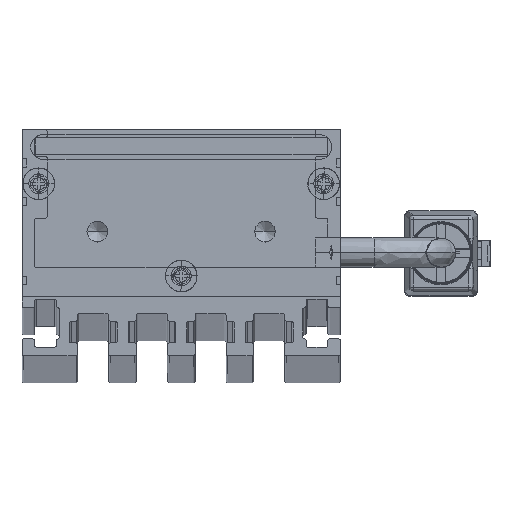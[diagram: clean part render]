
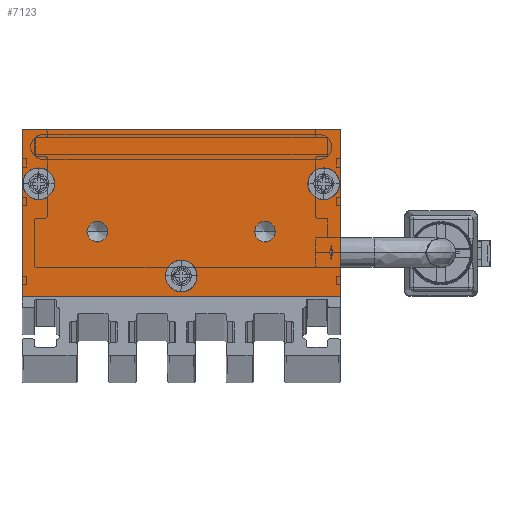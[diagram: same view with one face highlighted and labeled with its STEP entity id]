
A CAD part, top view. The second image highlights one B-rep face of the part: STEP entity #7123.
In plain terms, the highlighted planar face has unit normal (0, 0, 1) as drawn and (0, 0, -1) by its records, which use the part's own axes.
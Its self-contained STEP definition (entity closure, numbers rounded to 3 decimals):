
#138 = VERTEX_POINT ( 'NONE', #13411 ) ;
#186 = CIRCLE ( 'NONE', #11565, 1.9 ) ;
#296 = EDGE_LOOP ( 'NONE', ( #10713, #2514, #6945, #737 ) ) ;
#532 = VECTOR ( 'NONE', #13331, 1000. ) ;
#724 = CARTESIAN_POINT ( 'NONE',  ( 17., 13.5, -2.5 ) ) ;
#737 = ORIENTED_EDGE ( 'NONE', *, *, #13060, .F. ) ;
#748 = CARTESIAN_POINT ( 'NONE',  ( -17., 13.5, -2.5 ) ) ;
#769 = DIRECTION ( 'NONE',  ( 0., 0., -1. ) ) ;
#782 = AXIS2_PLACEMENT_3D ( 'NONE', #14626, #8401, #4578 ) ;
#985 = FACE_BOUND ( 'NONE', #12030, .T. ) ;
#1071 = CARTESIAN_POINT ( 'NONE',  ( 0., 0., -2.5 ) ) ;
#1179 = VECTOR ( 'NONE', #3588, 1000. ) ;
#1505 = EDGE_CURVE ( 'NONE', #11821, #138, #12246, .T. ) ;
#1665 = CARTESIAN_POINT ( 'NONE',  ( -19., 20., -2.5 ) ) ;
#1796 = EDGE_CURVE ( 'NONE', #11785, #14955, #3984, .T. ) ;
#1798 = VECTOR ( 'NONE', #8977, 1000. ) ;
#1811 = EDGE_LOOP ( 'NONE', ( #8878, #14829 ) ) ;
#1821 = ORIENTED_EDGE ( 'NONE', *, *, #12645, .F. ) ;
#1962 = CARTESIAN_POINT ( 'NONE',  ( 15.1, 13.5, -2.5 ) ) ;
#2100 = DIRECTION ( 'NONE',  ( -1., 0., 0. ) ) ;
#2311 = FACE_BOUND ( 'NONE', #1811, .T. ) ;
#2433 = DIRECTION ( 'NONE',  ( -1., 0., 0. ) ) ;
#2514 = ORIENTED_EDGE ( 'NONE', *, *, #4781, .F. ) ;
#2553 = CARTESIAN_POINT ( 'NONE',  ( -18.9, 13.5, -2.5 ) ) ;
#2968 = DIRECTION ( 'NONE',  ( 0., 0., -1. ) ) ;
#3050 = VERTEX_POINT ( 'NONE', #8273 ) ;
#3347 = AXIS2_PLACEMENT_3D ( 'NONE', #724, #2968, #14244 ) ;
#3476 = CARTESIAN_POINT ( 'NONE',  ( -19., 20., -2.5 ) ) ;
#3588 = DIRECTION ( 'NONE',  ( -1., 0., 0. ) ) ;
#3605 = AXIS2_PLACEMENT_3D ( 'NONE', #4656, #4745, #2100 ) ;
#3668 = CARTESIAN_POINT ( 'NONE',  ( -19., 20., -2.5 ) ) ;
#3861 = AXIS2_PLACEMENT_3D ( 'NONE', #8726, #12463, #2433 ) ;
#3863 = DIRECTION ( 'NONE',  ( -1., 0., 0. ) ) ;
#3984 = LINE ( 'NONE', #1665, #6173 ) ;
#4056 = ORIENTED_EDGE ( 'NONE', *, *, #11334, .F. ) ;
#4137 = CIRCLE ( 'NONE', #3347, 1.9 ) ;
#4363 = ORIENTED_EDGE ( 'NONE', *, *, #5262, .F. ) ;
#4400 = CIRCLE ( 'NONE', #8654, 1.9 ) ;
#4578 = DIRECTION ( 'NONE',  ( -1., 0., 0. ) ) ;
#4656 = CARTESIAN_POINT ( 'NONE',  ( -10., 7.8, -2.5 ) ) ;
#4745 = DIRECTION ( 'NONE',  ( 0., 0., -1. ) ) ;
#4755 = VERTEX_POINT ( 'NONE', #7386 ) ;
#4781 = EDGE_CURVE ( 'NONE', #15554, #11785, #14958, .T. ) ;
#5262 = EDGE_CURVE ( 'NONE', #7349, #10995, #4137, .T. ) ;
#5544 = CIRCLE ( 'NONE', #782, 1.25 ) ;
#5734 = CARTESIAN_POINT ( 'NONE',  ( -1.9, 2.5, -2.5 ) ) ;
#6127 = DIRECTION ( 'NONE',  ( 0., 0., 1. ) ) ;
#6173 = VECTOR ( 'NONE', #6793, 1000. ) ;
#6710 = ORIENTED_EDGE ( 'NONE', *, *, #15471, .F. ) ;
#6763 = CIRCLE ( 'NONE', #3605, 1.25 ) ;
#6793 = DIRECTION ( 'NONE',  ( 0., -1., 0. ) ) ;
#6945 = ORIENTED_EDGE ( 'NONE', *, *, #9125, .F. ) ;
#6958 = DIRECTION ( 'NONE',  ( -1., 0., 0. ) ) ;
#7100 = EDGE_LOOP ( 'NONE', ( #12614, #14977 ) ) ;
#7118 = CARTESIAN_POINT ( 'NONE',  ( -19., 0., -2.5 ) ) ;
#7123 = ADVANCED_FACE ( 'NONE', ( #7286, #985, #2311, #16404, #16329, #7363 ), #16251, .F. ) ;
#7132 = CARTESIAN_POINT ( 'NONE',  ( 0., 2.5, -2.5 ) ) ;
#7220 = DIRECTION ( 'NONE',  ( -1., 0., 0. ) ) ;
#7231 = CARTESIAN_POINT ( 'NONE',  ( 19., 0., -2.5 ) ) ;
#7286 = FACE_BOUND ( 'NONE', #9861, .T. ) ;
#7349 = VERTEX_POINT ( 'NONE', #1962 ) ;
#7363 = FACE_OUTER_BOUND ( 'NONE', #296, .T. ) ;
#7386 = CARTESIAN_POINT ( 'NONE',  ( -8.75, 7.8, -2.5 ) ) ;
#7473 = VERTEX_POINT ( 'NONE', #7231 ) ;
#7713 = CIRCLE ( 'NONE', #7973, 1.9 ) ;
#7798 = DIRECTION ( 'NONE',  ( -1., 0., 0. ) ) ;
#7885 = CARTESIAN_POINT ( 'NONE',  ( 19., 20., -2.5 ) ) ;
#7973 = AXIS2_PLACEMENT_3D ( 'NONE', #7132, #9628, #7220 ) ;
#8273 = CARTESIAN_POINT ( 'NONE',  ( -11.25, 7.8, -2.5 ) ) ;
#8366 = EDGE_LOOP ( 'NONE', ( #1821, #16027 ) ) ;
#8401 = DIRECTION ( 'NONE',  ( 0., 0., -1. ) ) ;
#8546 = ORIENTED_EDGE ( 'NONE', *, *, #10807, .F. ) ;
#8654 = AXIS2_PLACEMENT_3D ( 'NONE', #748, #15938, #6958 ) ;
#8726 = CARTESIAN_POINT ( 'NONE',  ( 17., 13.5, -2.5 ) ) ;
#8755 = VERTEX_POINT ( 'NONE', #2553 ) ;
#8878 = ORIENTED_EDGE ( 'NONE', *, *, #16409, .F. ) ;
#8962 = DIRECTION ( 'NONE',  ( 0., 0., -1. ) ) ;
#8977 = DIRECTION ( 'NONE',  ( 0., 1., 0. ) ) ;
#9125 = EDGE_CURVE ( 'NONE', #7473, #15554, #11786, .T. ) ;
#9327 = AXIS2_PLACEMENT_3D ( 'NONE', #11372, #8962, #7798 ) ;
#9391 = DIRECTION ( 'NONE',  ( 0., 0., -1. ) ) ;
#9628 = DIRECTION ( 'NONE',  ( 0., 0., -1. ) ) ;
#9861 = EDGE_LOOP ( 'NONE', ( #4363, #6710 ) ) ;
#9904 = CARTESIAN_POINT ( 'NONE',  ( 1.9, 2.5, -2.5 ) ) ;
#9946 = DIRECTION ( 'NONE',  ( 1., 0., 0. ) ) ;
#10713 = ORIENTED_EDGE ( 'NONE', *, *, #1796, .F. ) ;
#10804 = CARTESIAN_POINT ( 'NONE',  ( -10., 7.8, -2.5 ) ) ;
#10807 = EDGE_CURVE ( 'NONE', #14186, #10944, #12834, .T. ) ;
#10885 = EDGE_CURVE ( 'NONE', #3050, #4755, #6763, .T. ) ;
#10944 = VERTEX_POINT ( 'NONE', #5734 ) ;
#10995 = VERTEX_POINT ( 'NONE', #15361 ) ;
#11025 = CIRCLE ( 'NONE', #3861, 1.9 ) ;
#11107 = LINE ( 'NONE', #7118, #532 ) ;
#11334 = EDGE_CURVE ( 'NONE', #10944, #14186, #7713, .T. ) ;
#11372 = CARTESIAN_POINT ( 'NONE',  ( 10., 7.8, -2.5 ) ) ;
#11565 = AXIS2_PLACEMENT_3D ( 'NONE', #16045, #14809, #13377 ) ;
#11656 = CARTESIAN_POINT ( 'NONE',  ( 0., 2.5, -2.5 ) ) ;
#11785 = VERTEX_POINT ( 'NONE', #3476 ) ;
#11786 = LINE ( 'NONE', #15608, #1798 ) ;
#11821 = VERTEX_POINT ( 'NONE', #15998 ) ;
#11934 = CARTESIAN_POINT ( 'NONE',  ( -15.1, 13.5, -2.5 ) ) ;
#12030 = EDGE_LOOP ( 'NONE', ( #4056, #8546 ) ) ;
#12230 = CARTESIAN_POINT ( 'NONE',  ( -19., 0., -2.5 ) ) ;
#12246 = CIRCLE ( 'NONE', #9327, 1.25 ) ;
#12463 = DIRECTION ( 'NONE',  ( 0., 0., -1. ) ) ;
#12614 = ORIENTED_EDGE ( 'NONE', *, *, #10885, .F. ) ;
#12645 = EDGE_CURVE ( 'NONE', #138, #11821, #5544, .T. ) ;
#12834 = CIRCLE ( 'NONE', #14720, 1.9 ) ;
#13060 = EDGE_CURVE ( 'NONE', #14955, #7473, #11107, .T. ) ;
#13331 = DIRECTION ( 'NONE',  ( 1., 0., 0. ) ) ;
#13377 = DIRECTION ( 'NONE',  ( -1., 0., 0. ) ) ;
#13411 = CARTESIAN_POINT ( 'NONE',  ( 8.75, 7.8, -2.5 ) ) ;
#14186 = VERTEX_POINT ( 'NONE', #9904 ) ;
#14236 = AXIS2_PLACEMENT_3D ( 'NONE', #10804, #769, #14627 ) ;
#14244 = DIRECTION ( 'NONE',  ( -1., 0., 0. ) ) ;
#14626 = CARTESIAN_POINT ( 'NONE',  ( 10., 7.8, -2.5 ) ) ;
#14627 = DIRECTION ( 'NONE',  ( -1., 0., 0. ) ) ;
#14720 = AXIS2_PLACEMENT_3D ( 'NONE', #11656, #9391, #3863 ) ;
#14809 = DIRECTION ( 'NONE',  ( 0., 0., -1. ) ) ;
#14829 = ORIENTED_EDGE ( 'NONE', *, *, #15775, .F. ) ;
#14955 = VERTEX_POINT ( 'NONE', #12230 ) ;
#14958 = LINE ( 'NONE', #3668, #1179 ) ;
#14977 = ORIENTED_EDGE ( 'NONE', *, *, #16423, .F. ) ;
#15361 = CARTESIAN_POINT ( 'NONE',  ( 18.9, 13.5, -2.5 ) ) ;
#15471 = EDGE_CURVE ( 'NONE', #10995, #7349, #11025, .T. ) ;
#15553 = CIRCLE ( 'NONE', #14236, 1.25 ) ;
#15554 = VERTEX_POINT ( 'NONE', #7885 ) ;
#15608 = CARTESIAN_POINT ( 'NONE',  ( 19., 20., -2.5 ) ) ;
#15739 = VERTEX_POINT ( 'NONE', #11934 ) ;
#15775 = EDGE_CURVE ( 'NONE', #15739, #8755, #4400, .T. ) ;
#15938 = DIRECTION ( 'NONE',  ( 0., 0., -1. ) ) ;
#15998 = CARTESIAN_POINT ( 'NONE',  ( 11.25, 7.8, -2.5 ) ) ;
#16027 = ORIENTED_EDGE ( 'NONE', *, *, #1505, .F. ) ;
#16045 = CARTESIAN_POINT ( 'NONE',  ( -17., 13.5, -2.5 ) ) ;
#16251 = PLANE ( 'NONE',  #16349 ) ;
#16329 = FACE_BOUND ( 'NONE', #7100, .T. ) ;
#16349 = AXIS2_PLACEMENT_3D ( 'NONE', #1071, #6127, #9946 ) ;
#16404 = FACE_BOUND ( 'NONE', #8366, .T. ) ;
#16409 = EDGE_CURVE ( 'NONE', #8755, #15739, #186, .T. ) ;
#16423 = EDGE_CURVE ( 'NONE', #4755, #3050, #15553, .T. ) ;
